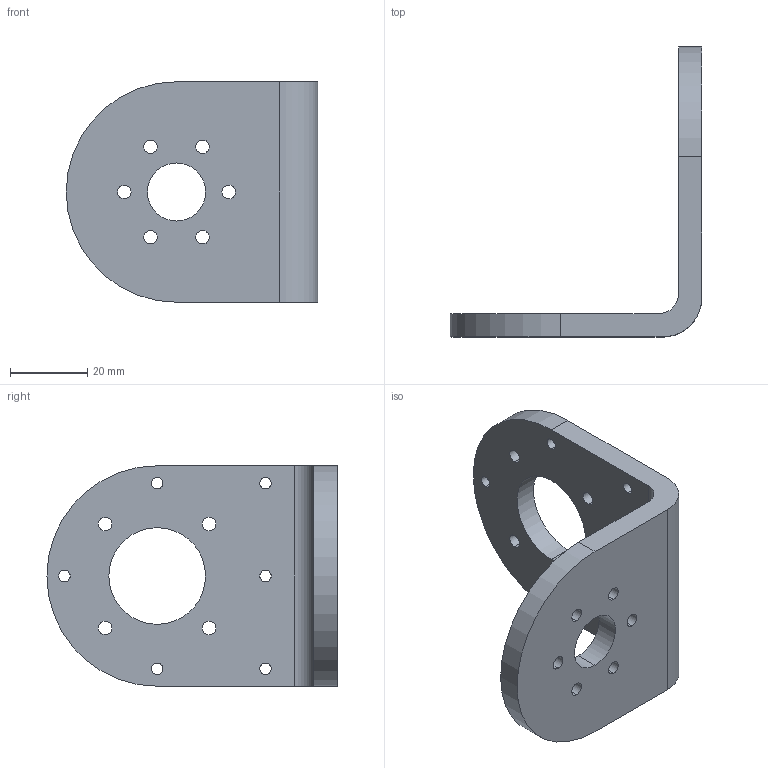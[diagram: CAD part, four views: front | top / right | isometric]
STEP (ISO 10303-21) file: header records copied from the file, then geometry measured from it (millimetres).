
FILE_DESCRIPTION (( 'STEP AP203' ), '1' );
FILE_NAME ('珨媼粣蟀諉璃.STEP', '2024-12-24T14:44:18', ( '' ), ( '' ), 'SwSTEP 2.0', 'SolidWorks 2022', '' );
FILE_SCHEMA (( 'CONFIG_CONTROL_DESIGN' ));
Length unit declared in the file: millimetre
Products named in the file (1): 珨媼粣蟀諉璃
Bounding box: 65 x 75 x 57 mm (x, y, z)
Volume: 35889.9 mm3; surface area: 15621.4 mm2
Topology: 1 solids, 1 shells, 46 faces, 132 edges, 88 vertices
Faces by surface type: cylinder 40, plane 6
Entity records: 1705 total; most frequent: DIRECTION 306, CARTESIAN_POINT 267, ORIENTED_EDGE 264, EDGE_CURVE 132, AXIS2_PLACEMENT_3D 127, VERTEX_POINT 88, EDGE_LOOP 82, CIRCLE 80
